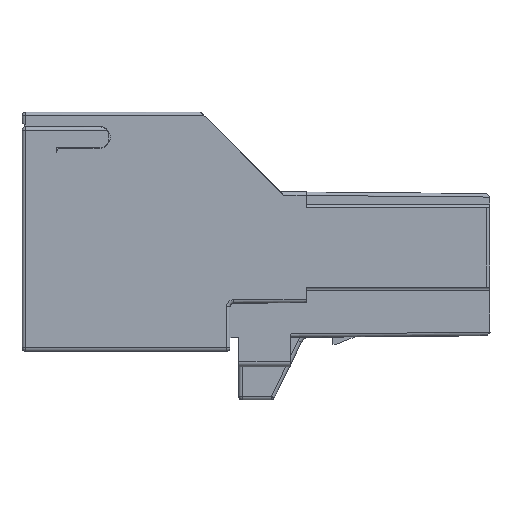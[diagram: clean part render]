
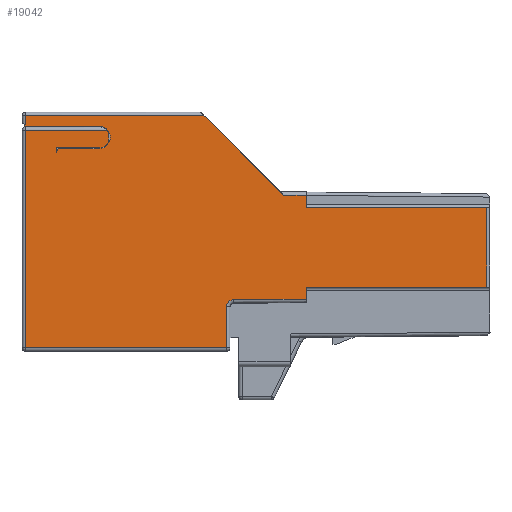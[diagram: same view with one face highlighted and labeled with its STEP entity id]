
A CAD part, left-side view. The second image highlights one B-rep face of the part: STEP entity #19042.
In plain terms, the highlighted planar face has unit normal (-1, 0, 0).
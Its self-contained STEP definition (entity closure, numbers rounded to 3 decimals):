
#1=DIRECTION('',(0.,0.,1.));
#2=VECTOR('',#1,12.55);
#3=CARTESIAN_POINT('',(-10.5,11.8,-5.8));
#4=LINE('',#3,#2);
#5=CARTESIAN_POINT('',(-10.5,7.5,6.45));
#6=DIRECTION('',(1.,0.,0.));
#7=DIRECTION('',(0.,-0.8,0.6));
#8=AXIS2_PLACEMENT_3D('',#5,#6,#7);
#10=DIRECTION('',(0.,0.,-1.));
#11=VECTOR('',#10,0.2);
#12=CARTESIAN_POINT('',(-10.5,7.,6.45));
#13=LINE('',#12,#11);
#14=CARTESIAN_POINT('',(-10.5,7.5,6.25));
#15=DIRECTION('',(1.,0.,0.));
#16=DIRECTION('',(0.,-1.,0.));
#17=AXIS2_PLACEMENT_3D('',#14,#15,#16);
#19=CARTESIAN_POINT('',(-10.5,9.8,5.5));
#20=DIRECTION('',(1.,0.,0.));
#21=DIRECTION('',(0.,1.,0.));
#22=AXIS2_PLACEMENT_3D('',#19,#20,#21);
#24=CARTESIAN_POINT('',(-10.5,7.55,6.35));
#25=DIRECTION('',(-1.,0.,0.));
#26=DIRECTION('',(0.,0.,-1.));
#27=AXIS2_PLACEMENT_3D('',#24,#25,#26);
#29=DIRECTION('',(0.,-0.707,-0.707));
#30=VECTOR('',#29,6.5);
#31=CARTESIAN_POINT('',(-10.5,1.5,7.6));
#32=LINE('',#31,#30);
#33=DIRECTION('',(0.,-1.,-0.009));
#34=VECTOR('',#33,1.304);
#35=CARTESIAN_POINT('',(-10.5,-3.096,3.004));
#36=LINE('',#35,#34);
#37=DIRECTION('',(0.,1.,-0.009));
#38=VECTOR('',#37,4.204);
#39=CARTESIAN_POINT('',(-10.5,-4.4,-2.992));
#40=LINE('',#39,#38);
#41=CARTESIAN_POINT('',(-10.5,-0.2,-3.429));
#42=DIRECTION('',(-1.,0.,0.));
#43=DIRECTION('',(0.,0.009,1.));
#44=AXIS2_PLACEMENT_3D('',#41,#42,#43);
#50=DIRECTION('',(0.,-1.,0.));
#51=VECTOR('',#50,11.6);
#52=CARTESIAN_POINT('',(-10.5,11.8,-5.8));
#53=LINE('',#52,#51);
#2151=DIRECTION('',(0.,0.,1.));
#2152=VECTOR('',#2151,2.371);
#2153=CARTESIAN_POINT('',(-10.5,0.2,-5.8));
#2154=LINE('',#2153,#2152);
#2179=DIRECTION('',(0.,0.,1.));
#2180=VECTOR('',#2179,0.692);
#2181=CARTESIAN_POINT('',(-10.5,-4.4,-2.992));
#2182=LINE('',#2181,#2180);
#2195=DIRECTION('',(0.,-1.,0.));
#2196=VECTOR('',#2195,10.4);
#2197=CARTESIAN_POINT('',(-10.5,-4.4,-2.3));
#2198=LINE('',#2197,#2196);
#2211=DIRECTION('',(0.,0.,1.));
#2212=VECTOR('',#2211,4.6);
#2213=CARTESIAN_POINT('',(-10.5,-14.8,-2.3));
#2214=LINE('',#2213,#2212);
#2227=DIRECTION('',(0.,1.,0.));
#2228=VECTOR('',#2227,10.4);
#2229=CARTESIAN_POINT('',(-10.5,-14.8,2.3));
#2230=LINE('',#2229,#2228);
#2244=DIRECTION('',(0.,0.,1.));
#2245=VECTOR('',#2244,0.692);
#2246=CARTESIAN_POINT('',(-10.5,-4.4,2.3));
#2247=LINE('',#2246,#2245);
#3711=DIRECTION('',(0.,-1.,0.));
#3712=VECTOR('',#3711,4.25);
#3713=CARTESIAN_POINT('',(-10.5,11.8,7.));
#3714=LINE('',#3713,#3712);
#3742=DIRECTION('',(0.,1.,0.));
#3743=VECTOR('',#3742,2.25);
#3744=CARTESIAN_POINT('',(-10.5,7.55,5.7));
#3745=LINE('',#3744,#3743);
#3754=DIRECTION('',(0.,0.,1.));
#3755=VECTOR('',#3754,0.25);
#3756=CARTESIAN_POINT('',(-10.5,10.,5.5));
#3757=LINE('',#3756,#3755);
#3774=DIRECTION('',(0.,-1.,0.));
#3775=VECTOR('',#3774,2.5);
#3776=CARTESIAN_POINT('',(-10.5,10.,5.75));
#3777=LINE('',#3776,#3775);
#3809=DIRECTION('',(0.,1.,0.));
#3810=VECTOR('',#3809,4.7);
#3811=CARTESIAN_POINT('',(-10.5,7.1,6.75));
#3812=LINE('',#3811,#3810);
#9786=DIRECTION('',(0.,1.,0.));
#9787=VECTOR('',#9786,10.3);
#9788=CARTESIAN_POINT('',(-10.5,1.5,7.6));
#9789=LINE('',#9788,#9787);
#10165=DIRECTION('',(0.,0.,-1.));
#10166=VECTOR('',#10165,0.6);
#10167=CARTESIAN_POINT('',(-10.5,11.8,7.6));
#10168=LINE('',#10167,#10166);
#14858=CARTESIAN_POINT('',(-10.5,-4.4,-2.992));
#14859=CARTESIAN_POINT('',(-10.5,-0.197,
-3.029));
#14860=VERTEX_POINT('',#14858);
#14861=VERTEX_POINT('',#14859);
#14862=CARTESIAN_POINT('',(-10.5,7.55,5.7));
#14863=CARTESIAN_POINT('',(-10.5,9.8,5.7));
#14864=VERTEX_POINT('',#14862);
#14865=VERTEX_POINT('',#14863);
#14866=CARTESIAN_POINT('',(-10.5,7.55,7.));
#14867=VERTEX_POINT('',#14866);
#14868=CARTESIAN_POINT('',(-10.5,11.8,7.));
#14869=VERTEX_POINT('',#14868);
#14870=CARTESIAN_POINT('',(-10.5,11.8,7.6));
#14871=VERTEX_POINT('',#14870);
#14872=CARTESIAN_POINT('',(-10.5,1.5,7.6));
#14873=VERTEX_POINT('',#14872);
#14874=CARTESIAN_POINT('',(-10.5,-3.096,3.004));
#14875=CARTESIAN_POINT('',(-10.5,-4.4,2.992));
#14876=VERTEX_POINT('',#14874);
#14877=VERTEX_POINT('',#14875);
#14878=CARTESIAN_POINT('',(-10.5,-4.4,2.3));
#14879=VERTEX_POINT('',#14878);
#14880=CARTESIAN_POINT('',(-10.5,-14.8,2.3));
#14881=VERTEX_POINT('',#14880);
#14882=CARTESIAN_POINT('',(-10.5,-14.8,-2.3));
#14883=VERTEX_POINT('',#14882);
#14884=CARTESIAN_POINT('',(-10.5,-4.4,-2.3));
#14885=VERTEX_POINT('',#14884);
#14888=CARTESIAN_POINT('',(-10.5,0.2,-3.429));
#14889=VERTEX_POINT('',#14888);
#14892=CARTESIAN_POINT('',(-10.5,0.2,-5.8));
#14893=VERTEX_POINT('',#14892);
#17930=CARTESIAN_POINT('',(-10.5,7.,6.45));
#17932=VERTEX_POINT('',#17930);
#17945=CARTESIAN_POINT('',(-10.5,7.,6.25));
#17947=VERTEX_POINT('',#17945);
#18823=CARTESIAN_POINT('',(-10.5,11.8,6.75));
#18824=VERTEX_POINT('',#18823);
#18825=CARTESIAN_POINT('',(-10.5,7.1,6.75));
#18826=VERTEX_POINT('',#18825);
#18827=CARTESIAN_POINT('',(-10.5,7.5,5.75));
#18828=VERTEX_POINT('',#18827);
#18829=CARTESIAN_POINT('',(-10.5,10.,5.75));
#18830=VERTEX_POINT('',#18829);
#18831=CARTESIAN_POINT('',(-10.5,11.8,-5.8));
#18832=VERTEX_POINT('',#18831);
#18980=CARTESIAN_POINT('',(-10.5,10.,5.5));
#18982=VERTEX_POINT('',#18980);
#18987=CARTESIAN_POINT('',(-10.5,-1.5,0.9));
#18988=DIRECTION('',(1.,0.,0.));
#18989=DIRECTION('',(0.,-1.,0.));
#18990=AXIS2_PLACEMENT_3D('',#18987,#18988,#18989);
#18991=PLANE('',#18990);
#18993=ORIENTED_EDGE('',*,*,#18992,.F.);
#18995=ORIENTED_EDGE('',*,*,#18994,.T.);
#18997=ORIENTED_EDGE('',*,*,#18996,.F.);
#18999=ORIENTED_EDGE('',*,*,#18998,.T.);
#19001=ORIENTED_EDGE('',*,*,#19000,.T.);
#19003=ORIENTED_EDGE('',*,*,#19002,.T.);
#19005=ORIENTED_EDGE('',*,*,#19004,.F.);
#19007=ORIENTED_EDGE('',*,*,#19006,.F.);
#19009=ORIENTED_EDGE('',*,*,#19008,.T.);
#19011=ORIENTED_EDGE('',*,*,#19010,.F.);
#19013=ORIENTED_EDGE('',*,*,#19012,.T.);
#19015=ORIENTED_EDGE('',*,*,#19014,.F.);
#19017=ORIENTED_EDGE('',*,*,#19016,.F.);
#19019=ORIENTED_EDGE('',*,*,#19018,.F.);
#19021=ORIENTED_EDGE('',*,*,#19020,.T.);
#19023=ORIENTED_EDGE('',*,*,#19022,.T.);
#19025=ORIENTED_EDGE('',*,*,#19024,.F.);
#19027=ORIENTED_EDGE('',*,*,#19026,.F.);
#19029=ORIENTED_EDGE('',*,*,#19028,.F.);
#19031=ORIENTED_EDGE('',*,*,#19030,.F.);
#19033=ORIENTED_EDGE('',*,*,#19032,.F.);
#19035=ORIENTED_EDGE('',*,*,#19034,.T.);
#19037=ORIENTED_EDGE('',*,*,#19036,.T.);
#19039=ORIENTED_EDGE('',*,*,#19038,.F.);
#19040=EDGE_LOOP('',(#18993,#18995,#18997,#18999,#19001,#19003,#19005,#19007,
#19009,#19011,#19013,#19015,#19017,#19019,#19021,#19023,#19025,#19027,#19029,
#19031,#19033,#19035,#19037,#19039));
#19041=FACE_OUTER_BOUND('',#19040,.F.);
#19042=ADVANCED_FACE('',(#19041),#18991,.F.);
#9=CIRCLE('',#8,0.5);
#18=CIRCLE('',#17,0.5);
#23=CIRCLE('',#22,0.2);
#28=CIRCLE('',#27,0.65);
#45=CIRCLE('',#44,0.4);
#18992=EDGE_CURVE('',#18832,#14893,#53,.T.);
#18994=EDGE_CURVE('',#18832,#18824,#4,.T.);
#18996=EDGE_CURVE('',#18826,#18824,#3812,.T.);
#18998=EDGE_CURVE('',#18826,#17932,#9,.T.);
#19000=EDGE_CURVE('',#17932,#17947,#13,.T.);
#19002=EDGE_CURVE('',#17947,#18828,#18,.T.);
#19004=EDGE_CURVE('',#18830,#18828,#3777,.T.);
#19006=EDGE_CURVE('',#18982,#18830,#3757,.T.);
#19008=EDGE_CURVE('',#18982,#14865,#23,.T.);
#19010=EDGE_CURVE('',#14864,#14865,#3745,.T.);
#19012=EDGE_CURVE('',#14864,#14867,#28,.T.);
#19014=EDGE_CURVE('',#14869,#14867,#3714,.T.);
#19016=EDGE_CURVE('',#14871,#14869,#10168,.T.);
#19018=EDGE_CURVE('',#14873,#14871,#9789,.T.);
#19020=EDGE_CURVE('',#14873,#14876,#32,.T.);
#19022=EDGE_CURVE('',#14876,#14877,#36,.T.);
#19024=EDGE_CURVE('',#14879,#14877,#2247,.T.);
#19026=EDGE_CURVE('',#14881,#14879,#2230,.T.);
#19028=EDGE_CURVE('',#14883,#14881,#2214,.T.);
#19030=EDGE_CURVE('',#14885,#14883,#2198,.T.);
#19032=EDGE_CURVE('',#14860,#14885,#2182,.T.);
#19034=EDGE_CURVE('',#14860,#14861,#40,.T.);
#19036=EDGE_CURVE('',#14861,#14889,#45,.T.);
#19038=EDGE_CURVE('',#14893,#14889,#2154,.T.);
